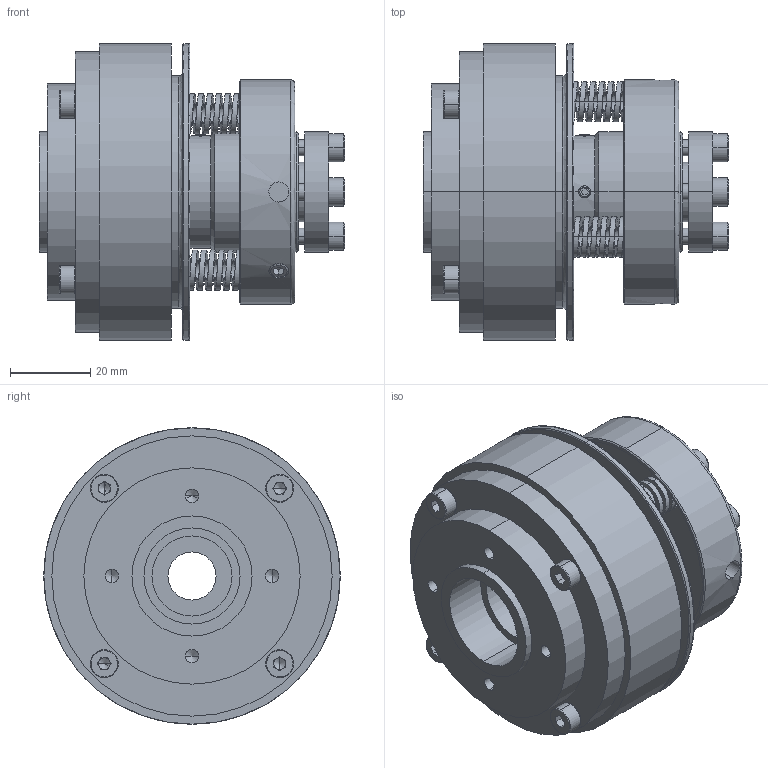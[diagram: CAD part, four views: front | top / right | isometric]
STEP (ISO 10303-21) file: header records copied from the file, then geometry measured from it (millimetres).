
FILE_DESCRIPTION (( 'STEP AP203' ), '1' );
FILE_NAME ('STL25F-L-P20.STEP', '2019-06-01T02:21:32', ( '' ), ( '' ), 'SwSTEP 2.0', 'SolidWorks 2015', '' );
FILE_SCHEMA (( 'CONFIG_CONTROL_DESIGN' ));
Products named in the file (1): STL25F-L-P20
Bounding box: 76.3 x 74 x 74 mm (x, y, z)
Volume: 157077.5 mm3; surface area: 42132 mm2
Topology: 1 solids, 7 shells, 517 faces, 1305 edges, 830 vertices
Faces by surface type: cylinder 257, plane 176, cone 46, bspline 38
Entity records: 33790 total; most frequent: CARTESIAN_POINT 21687, ORIENTED_EDGE 2570, DIRECTION 2380, EDGE_CURVE 1285, AXIS2_PLACEMENT_3D 898, VERTEX_POINT 830, EDGE_LOOP 595, LINE 584
